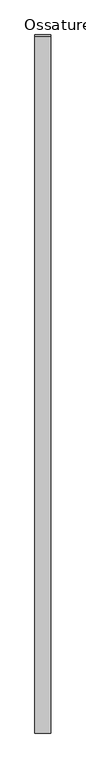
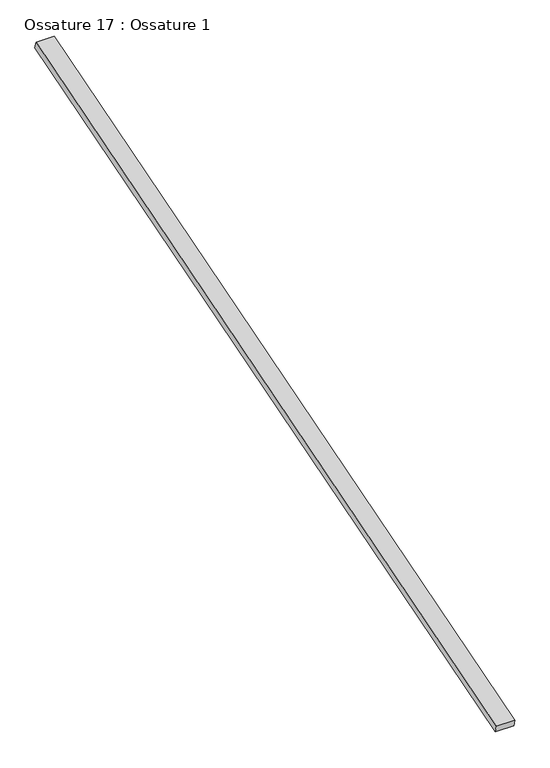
"""IFC4 building model written with IfcOpenShell, lengths in millimetres: beam geometry, Ossature 17 : Ossature 1."""

from ifc_helpers import new_model, si_unit, frame, origin, place, context, project, spatial, polyline, outline, extrude, source, transform, mapped, element, save


def ossature_17_ossature_1_26c74dfd(model_context):
    return source(origin(), model_context, "Body", "SweptSolid", [
        extrude(outline(polyline([(0.0, 0.0), (0.0, -4543.0299679), (-100.0, -4543.0299679), (-100.0, 0.0), (0.0, 0.0)])), frame((4358.2466393, -833.3913565, 8153.6336115), z_axis=(0.0, -0.28734788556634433, 0.9578262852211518), x_axis=(-1.0, 0.0, 0.0)), (0.0, 0.0, 1.0), 40.0),
    ])


if __name__ == "__main__":
    model = new_model("IFC4")
    model_context = context("Model", 3, world=origin())
    ifc_project = project(units=[si_unit("LENGTHUNIT", "METRE", prefix="MILLI")], contexts=[model_context])
    site = spatial("IfcSite", under=ifc_project)
    building = spatial("IfcBuilding", under=site)
    placement = place(None, origin())
    ossature_17_ossature_1_shape = ossature_17_ossature_1_26c74dfd(model_context)
    element("IfcBeam", 1, ObjectType="Ossature 17 : Ossature 1", at=placement, inside=building, context=model_context, shape_type="MappedRepresentation", body=[
        mapped(ossature_17_ossature_1_shape, transform((0.0, 0.0, 0.0), x_axis=(1.0, 0.0, 0.0), y_axis=(0.0, 1.0, 0.0), z_axis=(0.0, 0.0, 1.0))),
    ])
    save(model, "model.ifc")
